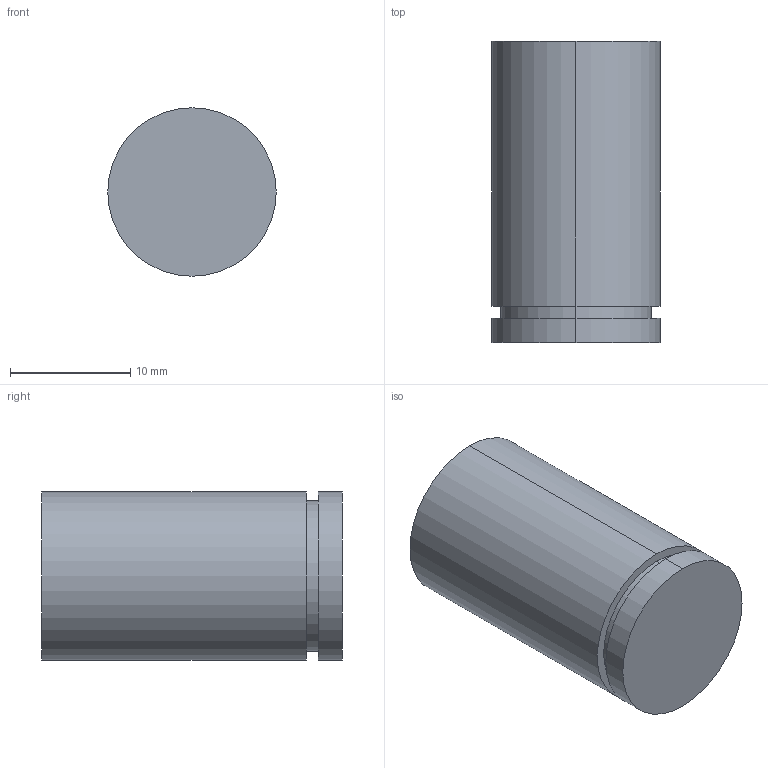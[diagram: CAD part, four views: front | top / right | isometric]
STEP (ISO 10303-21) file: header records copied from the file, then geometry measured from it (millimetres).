
FILE_DESCRIPTION( ( '' ), '1' );
FILE_NAME( 'C:/Documents and Settings/Nikhil/Desktop/Nik/Done/9070957.stp', '2013-10-23T11:31:10', ( '' ), ( '' ), ' ', ' ', ' ' );
FILE_SCHEMA( ( 'automotive_design' ) );
Length unit declared in the file: millimetre
Products named in the file (1): 1
Bounding box: 14 x 25 x 14 mm (x, y, z)
Volume: 3660.2 mm3; surface area: 1590.8 mm2
Topology: 1 solids, 1 shells, 13 faces, 24 edges, 16 vertices
Faces by surface type: cylinder 8, plane 5
Entity records: 662 total; most frequent: DIRECTION 68, STYLED_ITEM 54, PRESENTATION_STYLE_ASSIGNMENT 54, CARTESIAN_POINT 54, COLOUR_RGB 54, ORIENTED_EDGE 48, AXIS2_PLACEMENT_3D 30, EDGE_CURVE 24
